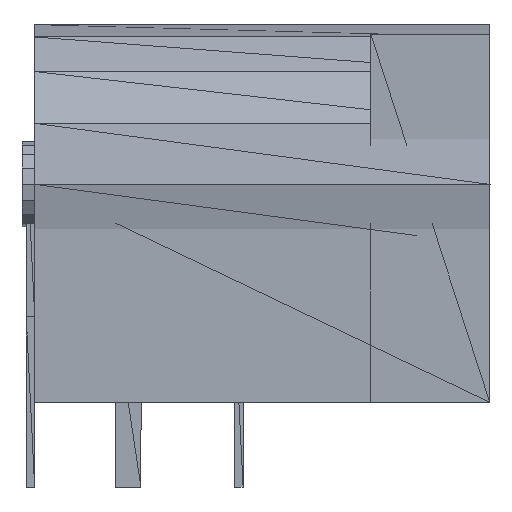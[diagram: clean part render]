
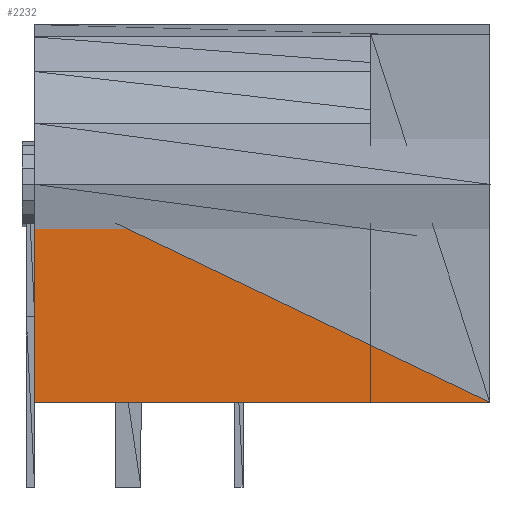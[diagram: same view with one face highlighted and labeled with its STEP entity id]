
A CAD part, front view. The second image highlights one B-rep face of the part: STEP entity #2232.
In plain terms, the highlighted planar face has unit normal (0, -1, 0).
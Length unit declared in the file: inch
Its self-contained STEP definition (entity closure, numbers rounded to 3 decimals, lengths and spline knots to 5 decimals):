
#1832=CARTESIAN_POINT('',(-0.53487,-0.17715,0.25615));
#1833=VERTEX_POINT('',#1832);
#2073=CARTESIAN_POINT('',(-0.53495,-0.17715,0.00015));
#2074=VERTEX_POINT('',#2073);
#2179=CARTESIAN_POINT('',(-0.53495,-0.17715,0.00015));
#2180=DIRECTION('',(0.,0.,1.));
#2181=VECTOR('',#2180,0.256);
#2182=LINE('',#2179,#2181);
#2183=EDGE_CURVE('',#2074,#1833,#2182,.T.);
#2210=CARTESIAN_POINT('',(-0.53485,-0.17715,0.25615));
#2211=DIRECTION('',(0.,1.,0.));
#2212=DIRECTION('',(1.,0.,0.));
#2213=AXIS2_PLACEMENT_3D('',#2210,#2211,#2212);
#2214=PLANE('',#2213);
#2215=ORIENTED_EDGE('',*,*,#2183,.F.);
#2216=CARTESIAN_POINT('',(0.00005,-0.177,0.));
#2217=VERTEX_POINT('',#2216);
#2218=CARTESIAN_POINT('',(0.00005,-0.177,0.));
#2219=DIRECTION('',(-1.,0.,0.));
#2220=VECTOR('',#2219,0.535);
#2221=LINE('',#2218,#2220);
#2222=EDGE_CURVE('',#2217,#2074,#2221,.T.);
#2223=ORIENTED_EDGE('',*,*,#2222,.F.);
#2224=CARTESIAN_POINT('',(0.00005,-0.177,0.));
#2225=DIRECTION('',(-0.902,0.,0.432));
#2226=VECTOR('',#2225,0.59309);
#2227=LINE('',#2224,#2226);
#2228=EDGE_CURVE('',#2217,#1833,#2227,.T.);
#2229=ORIENTED_EDGE('',*,*,#2228,.T.);
#2230=EDGE_LOOP('',(#2215,#2223,#2229));
#2231=FACE_BOUND('',#2230,.T.);
#2232=ADVANCED_FACE('',(#2231),#2214,.F.);
